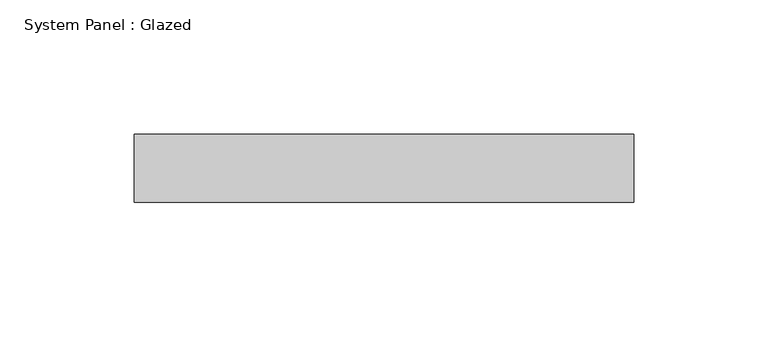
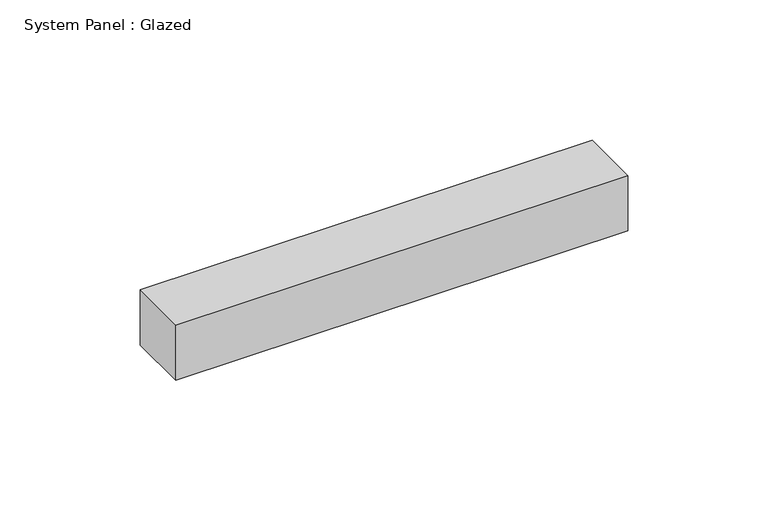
"""IFC4 building model written with IfcOpenShell, lengths in millimetres: plate geometry, System Panel : Glazed."""

from ifc_helpers import new_model, si_unit, origin, origin_with_axes, place, context, project, spatial, polyline, outline, extrude, source, transform, mapped, element, save


def system_panel_glazed_eb9da898(model_context):
    return source(origin(), model_context, "Body", "SweptSolid", [
        extrude(outline(polyline([(92.9906545, -44.45), (-92.9906545, -44.45), (-92.9906545, -19.05), (92.9906545, -19.05), (92.9906545, -44.45)])), origin_with_axes(), (0.0, 0.0, 1.0), 24.0243608),
    ])


if __name__ == "__main__":
    model = new_model("IFC4")
    model_context = context("Model", 3, world=origin())
    ifc_project = project(units=[si_unit("LENGTHUNIT", "METRE", prefix="MILLI")], contexts=[model_context])
    site = spatial("IfcSite", under=ifc_project)
    building = spatial("IfcBuilding", under=site)
    placement = place(None, origin())
    system_panel_glazed_shape = system_panel_glazed_eb9da898(model_context)
    element("IfcPlate", 1, ObjectType="System Panel : Glazed", at=placement, inside=building, context=model_context, shape_type="MappedRepresentation", body=[
        mapped(system_panel_glazed_shape, transform((0.0, 0.0, 0.0), x_axis=(1.0, 0.0, 0.0), y_axis=(0.0, 1.0, 0.0), z_axis=(0.0, 0.0, 1.0))),
    ])
    save(model, "model.ifc")
